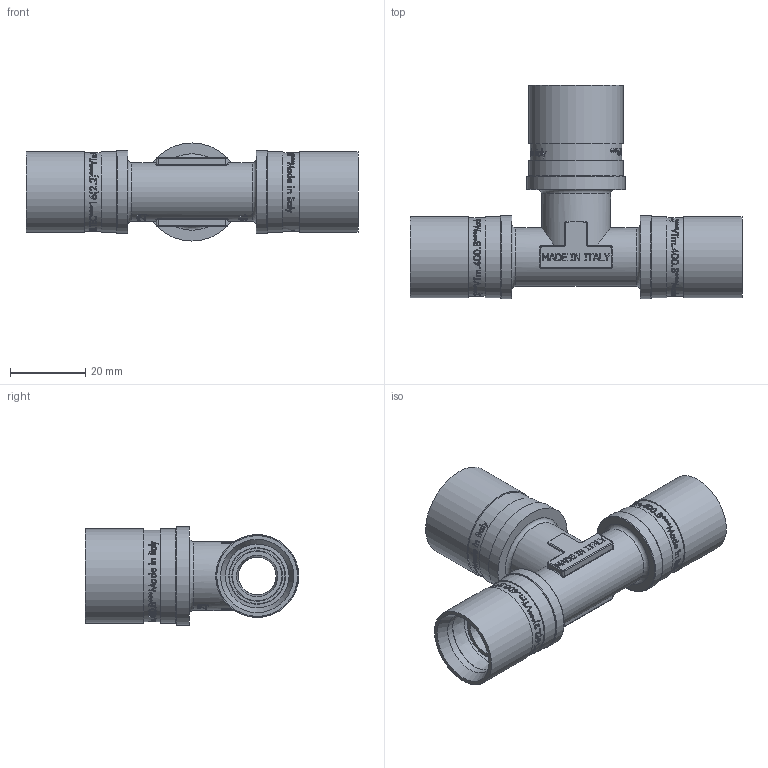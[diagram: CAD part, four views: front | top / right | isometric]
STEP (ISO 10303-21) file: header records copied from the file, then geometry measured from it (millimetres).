
FILE_DESCRIPTION(/* description */ (''),/* implementation_level */ '2;1');
FILE_NAME(/* name */ 'F:\Артём\00000\Работа удаленка\Аксеальные фитинги\VTm.431.BG.162016.stp',/* time_stamp */ '2021-01-26T12:04:51+03:00',/* author */ ('almis'),/* organization */ (''),/* preprocessor_version */ 'ST-DEVELOPER v18',/* originating_system */ 'Autodesk Inventor 2020',/* authorisation */ '');
FILE_SCHEMA (('AUTOMOTIVE_DESIGN { 1 0 10303 214 3 1 1 }'));
Length unit declared in the file: millimetre
Products named in the file (1): VTm.431.BG.161616
Bounding box: 88.02 x 56.55 x 26 mm (x, y, z)
Volume: 21584.5 mm3; surface area: 20386.8 mm2
Topology: 1 solids, 1 shells, 2481 faces, 6781 edges, 4537 vertices
Faces by surface type: bspline 1245, plane 859, cylinder 289, torus 67, cone 21
Full cylindrical faces by diameter (mm): 10 x1, 12.6 x1, 12.8 x10, 13.4 x8, 15 x2, 15.5 x1, 15.7 x5, 16.5 x4, 16.9 x4, 18.2 x1, 18.3 x1, 20.65 x2, 20.8 x2, 21.4 x4, 22 x2, 24.3 x1, 25 x2, 26 x1
Entity records: 101870 total; most frequent: CARTESIAN_POINT 46365, ORIENTED_EDGE 13554, DIRECTION 7907, EDGE_CURVE 6777, VERTEX_POINT 4537, LINE 3089, VECTOR 3089, EDGE_LOOP 2724
